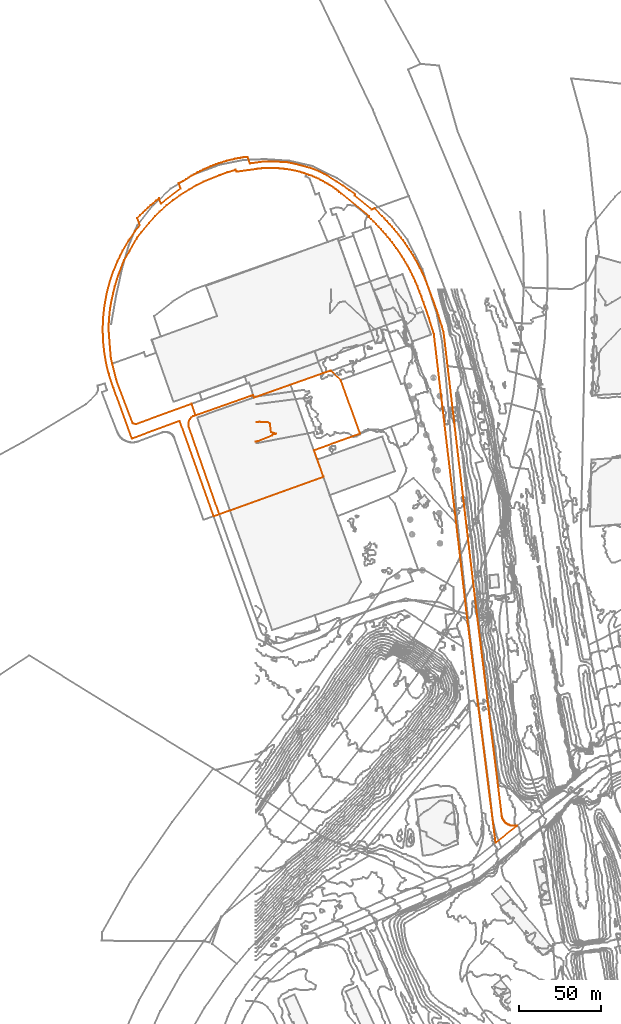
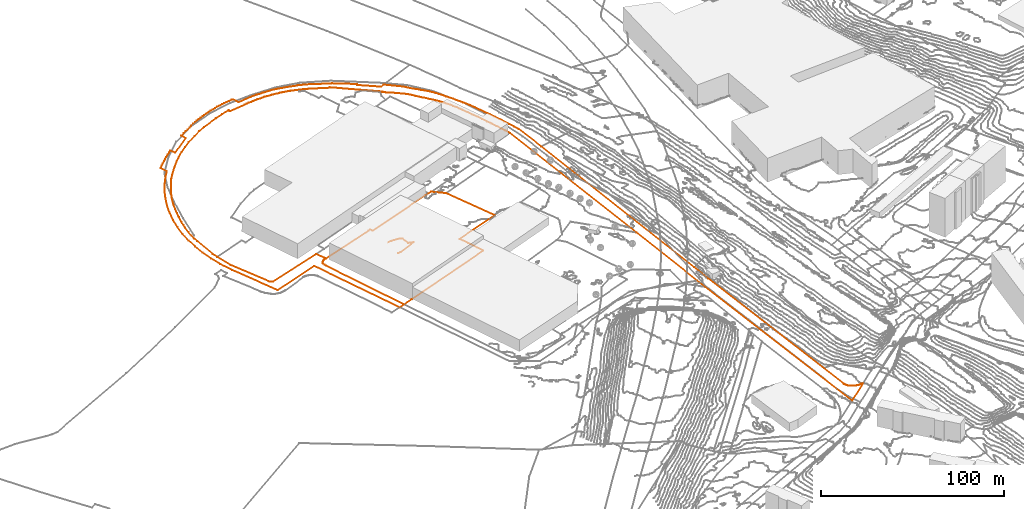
# Not in any storey, part 286 of 419: 3 proxies.
"""IFC2X3 model written with IfcOpenShell, lengths in metres."""

import ifcopenshell
import ifcopenshell.guid

model = None  # the IFC model being written
_history = None  # IfcOwnerHistory: only IFC2X3 demands one
_inside = {}  # id of a spatial element -> (the spatial element, [elements in it])
_under = {}  # id of a project, library or spatial element -> (it, [spatial elements below it])
_declared = {}  # id of a project -> (the project, [libraries it declares])
_typed = {}  # id of a type object -> (the type object, [elements of that type])
_made_of = {}  # id of a material, layer set ... -> (it, [elements and type objects made of it])


def new_model(schema):
    """Start an empty IFC model of exactly this schema.

    Asked for "IFC4X3", IfcOpenShell would pick the latest addendum, in which some entities
    have other attributes; the version numbers below select the first issue.
    IFC2X3 requires an IfcOwnerHistory on every rooted entity: one is made here for all.
    """
    global model, _history
    if schema == "IFC4X3":
        model = ifcopenshell.file(schema_version=(4, 3, 0, 0))
    else:
        model = ifcopenshell.file(schema=schema)
    _inside.clear()
    _under.clear()
    _declared.clear()
    _typed.clear()
    _made_of.clear()
    _history = None
    if model.schema == "IFC2X3":
        org = make("IfcOrganization", Name="unknown")
        user = make(
            "IfcPersonAndOrganization",
            ThePerson=make("IfcPerson", FamilyName="unknown"),
            TheOrganization=org,
        )
        app = make(
            "IfcApplication",
            ApplicationDeveloper=org,
            Version="unknown",
            ApplicationFullName="unknown",
            ApplicationIdentifier="unknown",
        )
        _history = make(
            "IfcOwnerHistory",
            OwningUser=user,
            OwningApplication=app,
            ChangeAction="ADDED",
            CreationDate=0,
        )
    return model


def make(cls, **values):
    """One entity of the class cls with the attributes given. An attribute that is None is left unset."""
    return model.create_entity(
        cls, **{name: value for name, value in values.items() if value is not None}
    )


def entity(cls, *values):
    """Any entity or typed value of the class cls, its attributes in the order of the schema. None: left unset."""
    e = model.create_entity(cls)
    for i, value in enumerate(values):
        if value is not None:
            e[i] = value
    return e


def rooted(cls, **values):
    """An entity with a GlobalId (a new one), such as an element, a storey or a relation."""
    return make(cls, GlobalId=ifcopenshell.guid.new(), OwnerHistory=_history, **values)


def si_unit(unit_type, name, prefix=None):
    """IfcSIUnit, for example si_unit("LENGTHUNIT", "METRE", prefix="MILLI")."""
    return make("IfcSIUnit", UnitType=unit_type, Prefix=prefix, Name=name)


def assignment(units):
    """IfcUnitAssignment: the units of a project."""
    return None if units is None else make("IfcUnitAssignment", Units=units)


def point(xyz):
    """IfcCartesianPoint."""
    return None if xyz is None else make("IfcCartesianPoint", Coordinates=xyz)


def direction(xyz):
    """IfcDirection."""
    return None if xyz is None else make("IfcDirection", DirectionRatios=xyz)


def frame(location, z_axis=None, x_axis=None):
    """IfcAxis2Placement3D, a coordinate frame: its origin and axes. An axis left out is left unset."""
    return make(
        "IfcAxis2Placement3D",
        Location=point(location),
        Axis=direction(z_axis),
        RefDirection=direction(x_axis),
    )


def origin_with_axes():
    """The frame at (0, 0, 0) with the z axis (0, 0, 1) and the x axis (1, 0, 0) written out."""
    return frame((0.0, 0.0, 0.0), z_axis=(0.0, 0.0, 1.0), x_axis=(1.0, 0.0, 0.0))


def place(relative_to, where):
    """IfcLocalPlacement: puts the frame where relative to a parent placement (None: the world)."""
    return make(
        "IfcLocalPlacement", PlacementRelTo=relative_to, RelativePlacement=where
    )


def context(
    kind, dimensions, precision=None, world=None, true_north=None, identifier=None
):
    """IfcGeometricRepresentationContext, for example the 3D "Model" context."""
    return make(
        "IfcGeometricRepresentationContext",
        ContextIdentifier=identifier,
        ContextType=kind,
        CoordinateSpaceDimension=dimensions,
        Precision=precision,
        WorldCoordinateSystem=world,
        TrueNorth=true_north,
    )


def subcontext(parent, identifier, kind, view, scale=None):
    """IfcGeometricRepresentationSubContext, for example "Body" below "Model"."""
    return make(
        "IfcGeometricRepresentationSubContext",
        ContextIdentifier=identifier,
        ContextType=kind,
        ParentContext=parent,
        TargetScale=scale,
        TargetView=view,
    )


def project(units=None, contexts=None):
    """IfcProject with its units and contexts."""
    return rooted(
        "IfcProject",
        Name="project",
        RepresentationContexts=contexts,
        UnitsInContext=assignment(units),
    )


def shape(context_of_items, identifier, shape_type, items):
    """IfcShapeRepresentation: the items that make up one representation, for example the "Body"."""
    return make(
        "IfcShapeRepresentation",
        ContextOfItems=context_of_items,
        RepresentationIdentifier=identifier,
        RepresentationType=shape_type,
        Items=items,
    )


def made_of(thing, what):
    """Note that an element or type object is made of a material, layer set ...; save() writes the relation."""
    if what is not None:
        _made_of.setdefault(what.id(), (what, []))[1].append(thing)
    return thing


def element(
    cls,
    number,
    at=None,
    inside=None,
    cuts=None,
    type_object=None,
    material=None,
    context=None,
    identifier="Body",
    shape_type=None,
    held_by="IfcProductDefinitionShape",
    body=None,
    shapes=None,
    **own,
):
    """One element of the class cls, such as IfcWall. Its Tag is "e" and its number.

    at: its placement. inside: the storey or other place that contains it. cuts: it is an
    opening in that element (IfcRelVoidsElement). A single representation is given by context,
    identifier, shape_type and body (its items); several are given by shapes. held_by: the class
    of the entity that holds the representations. save() writes the other relations.
    """
    e = rooted(cls, Tag="e%d" % number, ObjectPlacement=at, **own)
    if body is not None:
        shapes = [shape(context, identifier, shape_type, body)]
    if shapes is not None:
        e.Representation = make(held_by, Representations=shapes)
    if inside is not None:
        _inside.setdefault(inside.id(), (inside, []))[1].append(e)
    if cuts is not None:
        rooted(
            "IfcRelVoidsElement", RelatingBuildingElement=cuts, RelatedOpeningElement=e
        )
    if type_object is not None:
        _typed.setdefault(type_object.id(), (type_object, []))[1].append(e)
    return made_of(e, material)


def aggregate(whole, parts):
    """IfcRelAggregates: a whole, such as a stair, and the parts it consists of."""
    return rooted("IfcRelAggregates", RelatingObject=whole, RelatedObjects=parts)


def save(model, path):
    """Write the relations noted so far, then the file.

    IfcRelAggregates (storeys below a building ...), IfcRelContainedInSpatialStructure (elements
    in a storey), IfcRelDefinesByType, IfcRelAssociatesMaterial and IfcRelDeclares: one each for
    every whole, place, type object, material and project.
    """
    for whole, parts in _under.values():
        aggregate(whole, parts)
    for where, things in _inside.values():
        rooted(
            "IfcRelContainedInSpatialStructure",
            RelatedElements=things,
            RelatingStructure=where,
        )
    for kind, things in _typed.values():
        rooted("IfcRelDefinesByType", RelatedObjects=things, RelatingType=kind)
    for what, things in _made_of.values():
        rooted("IfcRelAssociatesMaterial", RelatedObjects=things, RelatingMaterial=what)
    for by, libraries in _declared.values():
        rooted("IfcRelDeclares", RelatingContext=by, RelatedDefinitions=libraries)
    model.write(path)


model = new_model("IFC2X3")

# Units and contexts
model_context = context("Model", 3, precision=1e-05, world=origin_with_axes())
body_context = subcontext(model_context, "Body", "Model", "MODEL_VIEW")
ifc_project = project(units=[si_unit("AREAUNIT", "SQUARE_METRE"), si_unit("LENGTHUNIT", "METRE")], contexts=[model_context])

# Proxies
proxy_1_placement = place(None, frame((-93.0679795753, 1008.8076909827, 20.1777002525), z_axis=(0.0, 0.0, 1.0), x_axis=(1.0, 0.0, 0.0)))
element("IfcBuildingElementProxy", 1, at=proxy_1_placement, Name="Cadastre 262", ObjectType="NOTDEFINED", context=body_context, shape_type="GeometricCurveSet", body=[
    entity("IfcGeometricCurveSet", [entity("IfcPolyline", [entity("IfcCartesianPoint", [81.2200000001, 95.1600000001, 0.2122991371]), entity("IfcCartesianPoint", [81.12, 95.4299999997, 0.2122991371]), entity("IfcCartesianPoint", [80.78, 96.3700000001, 0.2122991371]), entity("IfcCartesianPoint", [75.78, 94.8200000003, 0.2122991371]), entity("IfcCartesianPoint", [71.26, 93.25, 0.2122991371]), entity("IfcCartesianPoint", [70.8300000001, 93.0899999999, 0.2122991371]), entity("IfcCartesianPoint", [61.2400000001, 89.1699999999, 0.2122991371]), entity("IfcCartesianPoint", [57.0, 87.0099999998, 0.2122991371]), entity("IfcCartesianPoint", [52.38, 84.3700000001, 0.2122991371]), entity("IfcCartesianPoint", [46.77, 80.8099999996, 0.2122991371]), entity("IfcCartesianPoint", [42.7200000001, 77.9500000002, 0.2122991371]), entity("IfcCartesianPoint", [38.78, 74.7999999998, 0.2122991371]), entity("IfcCartesianPoint", [34.53, 70.9900000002, 0.2122991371]), entity("IfcCartesianPoint", [31.79, 68.25, 0.2122991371]), entity("IfcCartesianPoint", [28.02, 64.0300000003, 0.2122991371]), entity("IfcCartesianPoint", [23.25, 58.29, 0.2122991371]), entity("IfcCartesianPoint", [20.9300000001, 55.2000000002, 0.2122991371]), entity("IfcCartesianPoint", [20.42, 54.4000000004, 0.2122991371]), entity("IfcCartesianPoint", [16.2300000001, 47.1200000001, 0.2122991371]), entity("IfcCartesianPoint", [13.04, 41.4299999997, 0.2122991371]), entity("IfcCartesianPoint", [12.5600000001, 40.4900000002, 0.2122991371]), entity("IfcCartesianPoint", [9.5800000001, 32.8600000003, 0.2122991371]), entity("IfcCartesianPoint", [8.41, 29.1699999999, 0.2122991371]), entity("IfcCartesianPoint", [7.3400000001, 25.4199999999, 0.2122991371]), entity("IfcCartesianPoint", [6.37, 21.5499999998, 0.1919005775]), entity("IfcCartesianPoint", [5.37, 17.1100000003, 0.1374993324]), entity("IfcCartesianPoint", [4.77, 13.9299999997, 0.1057005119]), entity("IfcCartesianPoint", [4.41, 11.5, 0.0713997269]), entity("IfcCartesianPoint", [3.9600000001, 7.0599999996, 0.0269997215]), entity("IfcCartesianPoint", [3.7000000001, 3.0999999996, -0.0226005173]), entity("IfcCartesianPoint", [3.63, 0.1299999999, -0.0039000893]), entity("IfcCartesianPoint", [3.7400000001, -2.8300000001, 0.1233001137]), entity("IfcCartesianPoint", [4.9600000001, -17.9100000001, -0.0077001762]), entity("IfcCartesianPoint", [5.8100000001, -21.3600000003, -0.0177004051]), entity("IfcCartesianPoint", [8.3500000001, -31.6100000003, -0.0576994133]), entity("IfcCartesianPoint", [18.16, -57.3200000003, 0.9151001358]), entity("IfcCartesianPoint", [18.8200000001, -57.7800000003, 0.9519001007]), entity("IfcCartesianPoint", [19.87, -58.1299999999, 0.979900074]), entity("IfcCartesianPoint", [53.9400000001, -45.7199999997, -0.1629005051]), entity("IfcCartesianPoint", [56.38, -52.71, 0.3122989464]), entity("IfcCartesianPoint", [54.89, -53.2400000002, 0.3652991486]), entity("IfcCartesianPoint", [53.8, -53.9800000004, 0.4107998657]), entity("IfcCartesianPoint", [52.89, -54.96, 0.4542998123]), entity("IfcCartesianPoint", [52.38, -55.8700000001, 0.642499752]), entity("IfcCartesianPoint", [52.0700000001, -57.0200000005, 0.8911001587]), entity("IfcCartesianPoint", [52.01, -58.3499999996, 0.9975000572]), entity("IfcCartesianPoint", [52.2200000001, -59.6600000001, 1.0922997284]), entity("IfcCartesianPoint", [70.78, -112.7800000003, 0.9423005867]), entity("IfcCartesianPoint", [67.3200000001, -113.9400000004, 0.9475996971]), entity("IfcCartesianPoint", [46.7200000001, -56.0599999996, 0.7127999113]), entity("IfcCartesianPoint", [17.7200000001, -66.7800000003, 1.1793997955]), entity("IfcCartesianPoint", [6.54, -36.0599999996, -0.0741997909]), entity("IfcCartesianPoint", [3.7200000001, -27.7999999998, -0.0416009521]), entity("IfcCartesianPoint", [2.0600000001, -20.96, -0.0177004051]), entity("IfcCartesianPoint", [0.89, -14.0200000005, 0.0062001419]), entity("IfcCartesianPoint", [0.2000000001, -7.0300000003, 0.0861000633]), entity("IfcCartesianPoint", [0.0, 0.0, 0.0]), entity("IfcCartesianPoint", [0.3, 7.0199999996, 0.0265997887]), entity("IfcCartesianPoint", [1.0700000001, 14.0099999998, 0.1065005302]), entity("IfcCartesianPoint", [2.3500000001, 20.9299999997, 0.1857004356]), entity("IfcCartesianPoint", [4.1000000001, 27.75, 0.2122991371]), entity("IfcCartesianPoint", [6.3100000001, 34.4199999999, 0.2122991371]), entity("IfcCartesianPoint", [8.9900000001, 40.9199999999, 0.2122991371]), entity("IfcCartesianPoint", [10.65, 44.2599999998, 0.2122991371]), entity("IfcCartesianPoint", [12.12, 47.2299999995, 0.2122991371]), entity("IfcCartesianPoint", [15.67, 53.29, 0.2122991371]), entity("IfcCartesianPoint", [19.65, 59.0999999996, 0.2122991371]), entity("IfcCartesianPoint", [22.51, 62.79, 0.2122991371]), entity("IfcCartesianPoint", [20.9800000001, 67.1399999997, 0.2122991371]), entity("IfcCartesianPoint", [22.8400000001, 68.9100000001, 0.2122991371]), entity("IfcCartesianPoint", [24.39, 70.4299999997, 0.2122991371]), entity("IfcCartesianPoint", [25.9400000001, 71.9199999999, 0.2122991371]), entity("IfcCartesianPoint", [27.53, 73.4000000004, 0.2122991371]), entity("IfcCartesianPoint", [29.14, 74.8600000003, 0.2122991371]), entity("IfcCartesianPoint", [30.77, 76.2800000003, 0.2122991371]), entity("IfcCartesianPoint", [32.42, 77.6900000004, 0.2122991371]), entity("IfcCartesianPoint", [34.13, 79.0899999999, 0.2122991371]), entity("IfcCartesianPoint", [35.3200000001, 75.8600000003, 0.2122991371]), entity("IfcCartesianPoint", [47.28, 85.0499999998, 0.2122991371]), entity("IfcCartesianPoint", [46.1900000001, 88.1799999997, 0.2122991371]), entity("IfcCartesianPoint", [48.7100000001, 89.5700000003, 0.2122991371]), entity("IfcCartesianPoint", [50.4800000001, 90.6699999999, 0.2122991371]), entity("IfcCartesianPoint", [52.27, 91.75, 0.2122991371]), entity("IfcCartesianPoint", [54.0700000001, 92.79, 0.2122991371]), entity("IfcCartesianPoint", [55.89, 93.8099999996, 0.2122991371]), entity("IfcCartesianPoint", [57.7200000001, 94.8099999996, 0.2122991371]), entity("IfcCartesianPoint", [59.26, 95.6100000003, 0.2122991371]), entity("IfcCartesianPoint", [60.8100000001, 96.3799999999, 0.2122991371]), entity("IfcCartesianPoint", [62.38, 97.1200000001, 0.2122991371]), entity("IfcCartesianPoint", [63.9600000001, 97.8300000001, 0.2122991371]), entity("IfcCartesianPoint", [65.5600000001, 98.5099999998, 0.2122991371]), entity("IfcCartesianPoint", [67.17, 99.1399999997, 0.2122991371]), entity("IfcCartesianPoint", [68.8, 99.75, 0.2122991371]), entity("IfcCartesianPoint", [70.4300000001, 100.3200000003, 0.2122991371]), entity("IfcCartesianPoint", [72.0800000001, 100.8600000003, 0.2122991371]), entity("IfcCartesianPoint", [73.7400000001, 101.3600000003, 0.2122991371]), entity("IfcCartesianPoint", [75.41, 101.8300000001, 0.2122991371]), entity("IfcCartesianPoint", [77.0900000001, 102.2599999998, 0.2122991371]), entity("IfcCartesianPoint", [78.79, 102.6699999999, 0.2122991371]), entity("IfcCartesianPoint", [80.4800000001, 103.0300000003, 0.2122991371]), entity("IfcCartesianPoint", [82.1800000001, 103.3499999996, 0.2122991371]), entity("IfcCartesianPoint", [83.89, 103.6399999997, 0.2122991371]), entity("IfcCartesianPoint", [85.6100000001, 103.9100000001, 0.2122991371]), entity("IfcCartesianPoint", [87.3300000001, 104.1200000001, 0.2122991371]), entity("IfcCartesianPoint", [88.0600000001, 103.96, 0.2122991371]), entity("IfcCartesianPoint", [89.3600000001, 100.2299999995, 0.2122991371]), entity("IfcCartesianPoint", [97.52, 101.3399999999, 0.2509000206]), entity("IfcCartesianPoint", [101.41, 101.3300000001, 0.2797992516]), entity("IfcCartesianPoint", [105.3, 101.25, 0.3022992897]), entity("IfcCartesianPoint", [110.62, 101.04, 0.3419001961]), entity("IfcCartesianPoint", [111.8300000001, 100.9100000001, 0.3440002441]), entity("IfcCartesianPoint", [114.5800000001, 100.3799999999, 0.3714991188]), entity("IfcCartesianPoint", [120.8300000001, 98.8700000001, 0.4122999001]), entity("IfcCartesianPoint", [125.52, 97.5499999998, 0.4409005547]), entity("IfcCartesianPoint", [128.15, 96.6799999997, 0.4622991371]), entity("IfcCartesianPoint", [131.53, 95.2800000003, 0.4822995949]), entity("IfcCartesianPoint", [134.6800000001, 93.7199999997, 0.5025000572]), entity("IfcCartesianPoint", [136.38, 92.7199999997, 0.5195004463]), entity("IfcCartesianPoint", [142.01, 89.1500000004, 1.1082993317]), entity("IfcCartesianPoint", [145.8200000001, 86.6200000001, 1.078699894]), entity("IfcCartesianPoint", [149.6000000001, 84.04, 1.2298996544]), entity("IfcCartesianPoint", [153.3500000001, 81.3499999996, 1.3798997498]), entity("IfcCartesianPoint", [152.92, 80.54, 1.3627001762]), entity("IfcCartesianPoint", [163.16, 72.2699999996, 1.6872995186]), entity("IfcCartesianPoint", [165.16, 72.9900000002, 1.9472997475]), entity("IfcCartesianPoint", [169.5800000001, 68.1799999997, 2.5218988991]), entity("IfcCartesianPoint", [171.1000000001, 66.6600000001, 2.7150994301]), entity("IfcCartesianPoint", [172.6100000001, 65.1100000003, 2.8202997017]), entity("IfcCartesianPoint", [174.0800000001, 63.5300000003, 2.7518997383]), entity("IfcCartesianPoint", [175.52, 61.9400000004, 2.6650999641]), entity("IfcCartesianPoint", [176.9300000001, 60.3099999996, 2.7592996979]), entity("IfcCartesianPoint", [178.3200000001, 58.6600000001, 2.8983002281]), entity("IfcCartesianPoint", [179.67, 56.9799999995, 3.0332988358]), entity("IfcCartesianPoint", [180.9900000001, 55.2800000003, 3.1652993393]), entity("IfcCartesianPoint", [182.29, 53.5499999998, 3.2952998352]), entity("IfcCartesianPoint", [183.55, 51.8099999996, 3.3945997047]), entity("IfcCartesianPoint", [184.78, 50.0300000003, 3.3886995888]), entity("IfcCartesianPoint", [185.9700000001, 48.2400000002, 3.3437002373]), entity("IfcCartesianPoint", [187.15, 46.4299999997, 3.3022992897]), entity("IfcCartesianPoint", [188.27, 44.5899999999, 3.241299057]), entity("IfcCartesianPoint", [189.37, 42.7400000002, 3.1596992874]), entity("IfcCartesianPoint", [190.4400000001, 40.8600000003, 3.0954998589]), entity("IfcCartesianPoint", [191.4700000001, 38.9699999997, 3.0579994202]), entity("IfcCartesianPoint", [192.4700000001, 37.0599999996, 3.1170992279]), entity("IfcCartesianPoint", [193.4300000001, 35.1299999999, 3.1553997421]), entity("IfcCartesianPoint", [194.3600000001, 33.1900000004, 3.1693000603]), entity("IfcCartesianPoint", [195.25, 31.2199999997, 3.1899994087]), entity("IfcCartesianPoint", [196.5800000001, 27.9299999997, 3.1931004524]), entity("IfcCartesianPoint", [197.8600000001, 24.6299999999, 3.1683000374]), entity("IfcCartesianPoint", [199.13, 21.3099999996, 3.174836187]), entity("IfcCartesianPoint", [200.3400000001, 17.9799999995, 3.1898045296]), entity("IfcCartesianPoint", [201.53, 14.6399999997, 3.1796050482]), entity("IfcCartesianPoint", [202.6800000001, 11.29, 3.2215193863]), entity("IfcCartesianPoint", [203.8, 7.9199999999, 3.2466759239]), entity("IfcCartesianPoint", [204.88, 4.54, 3.2761191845]), entity("IfcCartesianPoint", [205.9300000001, 1.1500000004, 3.3220523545]), entity("IfcCartesianPoint", [206.9300000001, -2.25, 3.3982356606]), entity("IfcCartesianPoint", [209.38, -22.8499999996, 3.3422682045]), entity("IfcCartesianPoint", [225.78, -161.4500000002, 1.013835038]), entity("IfcCartesianPoint", [227.3, -174.2599999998, 0.8382595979]), entity("IfcCartesianPoint", [242.28, -296.0800000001, -0.6958459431]), entity("IfcCartesianPoint", [242.3, -296.2700000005, -0.6939959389]), entity("IfcCartesianPoint", [242.41, -296.5999999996, -0.6839999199]), entity("IfcCartesianPoint", [242.5800000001, -297.1100000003, -0.6720999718]), entity("IfcCartesianPoint", [242.8, -297.6100000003, -0.6582200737]), entity("IfcCartesianPoint", [243.05, -298.0899999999, -0.6406481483]), entity("IfcCartesianPoint", [243.3300000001, -298.5499999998, -0.6253380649]), entity("IfcCartesianPoint", [243.64, -298.9900000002, -0.6241837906]), entity("IfcCartesianPoint", [243.9800000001, -299.4100000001, -0.6220995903]), entity("IfcCartesianPoint", [244.3600000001, -299.79, -0.6145001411]), entity("IfcCartesianPoint", [244.76, -300.1600000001, -0.6017006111]), entity("IfcCartesianPoint", [245.1900000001, -300.4800000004, -0.5694135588]), entity("IfcCartesianPoint", [245.64, -300.7800000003, -0.5431782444]), entity("IfcCartesianPoint", [246.1100000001, -301.04, -0.4980704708]), entity("IfcCartesianPoint", [246.6000000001, -301.2700000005, -0.450868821]), entity("IfcCartesianPoint", [247.1000000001, -301.46, -0.4226608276]), entity("IfcCartesianPoint", [247.62, -301.6100000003, -0.3874607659]), entity("IfcCartesianPoint", [248.15, -301.7300000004, -0.3639000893]), entity("IfcCartesianPoint", [248.6800000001, -301.7999999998, -0.3376553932]), entity("IfcCartesianPoint", [249.2200000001, -301.8399999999, -0.3077156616]), entity("IfcCartesianPoint", [249.76, -301.8300000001, -0.2738599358]), entity("IfcCartesianPoint", [250.3, -301.79, -0.2388362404]), entity("IfcCartesianPoint", [250.8400000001, -301.7000000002, -0.2031783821]), entity("IfcCartesianPoint", [251.54, -301.7800000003, -0.178844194]), entity("IfcCartesianPoint", [238.4800000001, -312.1399999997, -1.0937582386]), entity("IfcCartesianPoint", [220.9700000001, -173.2800000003, 0.8770050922]), entity("IfcCartesianPoint", [214.6000000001, -118.0200000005, 1.7040001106]), entity("IfcCartesianPoint", [201.04, -3.4500000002, 3.2956911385]), entity("IfcCartesianPoint", [200.0600000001, -0.1699999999, 3.2702995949]), entity("IfcCartesianPoint", [199.05, 3.0999999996, 3.2137341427]), entity("IfcCartesianPoint", [197.9900000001, 6.3700000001, 3.1764653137]), entity("IfcCartesianPoint", [196.92, 9.6200000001, 3.1646334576]), entity("IfcCartesianPoint", [195.8100000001, 12.8600000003, 3.0907844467]), entity("IfcCartesianPoint", [194.65, 16.0800000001, 3.1175528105]), entity("IfcCartesianPoint", [193.4800000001, 19.2999999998, 3.0941863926]), entity("IfcCartesianPoint", [192.26, 22.5, 3.0197192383]), entity("IfcCartesianPoint", [191.02, 25.6900000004, 3.0714997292]), entity("IfcCartesianPoint", [189.7300000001, 28.8799999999, 3.1380994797]), entity("IfcCartesianPoint", [188.8600000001, 30.7999999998, 3.190299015]), entity("IfcCartesianPoint", [187.9500000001, 32.6900000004, 3.2732991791]), entity("IfcCartesianPoint", [187.0, 34.5800000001, 3.3022992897]), entity("IfcCartesianPoint", [186.02, 36.4400000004, 3.3407001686]), entity("IfcCartesianPoint", [185.01, 38.29, 3.3817998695]), entity("IfcCartesianPoint", [183.9600000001, 40.1200000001, 3.3992996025]), entity("IfcCartesianPoint", [182.88, 41.9299999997, 3.3476999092]), entity("IfcCartesianPoint", [181.76, 43.7199999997, 3.242299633]), entity("IfcCartesianPoint", [180.62, 45.4900000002, 3.1282991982]), entity("IfcCartesianPoint", [179.4300000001, 47.2299999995, 3.0092991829]), entity("IfcCartesianPoint", [178.2200000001, 48.96, 2.88830019]), entity("IfcCartesianPoint", [176.9700000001, 50.6600000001, 2.7632997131]), entity("IfcCartesianPoint", [175.6900000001, 52.3399999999, 2.6643998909]), entity("IfcCartesianPoint", [174.38, 53.9900000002, 2.7159000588]), entity("IfcCartesianPoint", [173.05, 55.6200000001, 2.8144995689]), entity("IfcCartesianPoint", [171.6800000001, 57.2299999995, 2.7830988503]), entity("IfcCartesianPoint", [170.28, 58.7999999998, 2.6128994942]), entity("IfcCartesianPoint", [168.8500000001, 60.3600000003, 2.4269995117]), entity("IfcCartesianPoint", [167.4, 61.8799999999, 2.2385002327]), entity("IfcCartesianPoint", [165.91, 63.3700000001, 2.0448000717]), entity("IfcCartesianPoint", [164.4, 64.8399999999, 1.8484994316]), entity("IfcCartesianPoint", [162.8600000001, 66.29, 1.6482991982]), entity("IfcCartesianPoint", [161.3, 67.7000000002, 1.4455001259]), entity("IfcCartesianPoint", [161.66, 68.1200000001, 1.4922998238]), entity("IfcCartesianPoint", [144.7400000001, 82.0300000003, 1.0722997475]), entity("IfcCartesianPoint", [143.64, 82.9199999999, 1.072499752]), entity("IfcCartesianPoint", [142.53, 83.79, 1.0874998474]), entity("IfcCartesianPoint", [141.38, 84.6399999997, 1.1334992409]), entity("IfcCartesianPoint", [140.2300000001, 85.4500000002, 1.1752001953]), entity("IfcCartesianPoint", [138.9600000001, 86.3099999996, 1.2202998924]), entity("IfcCartesianPoint", [137.67, 87.1399999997, 0.4996998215]), entity("IfcCartesianPoint", [136.3600000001, 87.9500000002, 0.5193004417]), entity("IfcCartesianPoint", [135.02, 88.7199999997, 0.505900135]), entity("IfcCartesianPoint", [133.6800000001, 89.4699999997, 0.5023000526]), entity("IfcCartesianPoint", [132.3100000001, 90.1799999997, 0.4887997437]), entity("IfcCartesianPoint", [130.9400000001, 90.8600000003, 0.4822995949]), entity("IfcCartesianPoint", [129.54, 91.5, 0.4710993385]), entity("IfcCartesianPoint", [128.14, 92.1200000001, 0.4622991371]), entity("IfcCartesianPoint", [126.7200000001, 92.7000000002, 0.452898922]), entity("IfcCartesianPoint", [125.27, 93.25, 0.4384004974]), entity("IfcCartesianPoint", [123.8200000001, 93.7699999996, 0.4323003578]), entity("IfcCartesianPoint", [122.37, 94.2599999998, 0.4194000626]), entity("IfcCartesianPoint", [120.9, 94.71, 0.4122999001]), entity("IfcCartesianPoint", [119.42, 95.1200000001, 0.3998996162]), entity("IfcCartesianPoint", [117.9300000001, 95.5, 0.3922994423]), entity("IfcCartesianPoint", [116.4300000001, 95.8499999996, 0.3799991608]), entity("IfcCartesianPoint", [114.92, 96.1699999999, 0.3722989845]), entity("IfcCartesianPoint", [113.41, 96.4500000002, 0.3598006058]), entity("IfcCartesianPoint", [111.89, 96.6799999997, 0.3446002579]), entity("IfcCartesianPoint", [110.37, 96.9000000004, 0.3394001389]), entity("IfcCartesianPoint", [108.8400000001, 97.0700000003, 0.3240997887]), entity("IfcCartesianPoint", [107.3100000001, 97.21, 0.3187996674]), entity("IfcCartesianPoint", [105.78, 97.3200000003, 0.3034993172]), entity("IfcCartesianPoint", [104.29, 97.3899999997, 0.298599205]), entity("IfcCartesianPoint", [102.8, 97.4199999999, 0.283698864]), entity("IfcCartesianPoint", [101.3, 97.4199999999, 0.2786994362]), entity("IfcCartesianPoint", [99.8200000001, 97.3899999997, 0.2639003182]), entity("IfcCartesianPoint", [98.3300000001, 97.3300000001, 0.2523000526]), entity("IfcCartesianPoint", [96.8400000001, 97.2299999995, 0.244099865]), entity("IfcCartesianPoint", [95.3600000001, 97.0899999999, 0.2322995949]), entity("IfcCartesianPoint", [93.88, 96.9299999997, 0.2244994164]), entity("IfcCartesianPoint", [92.4, 96.7400000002, 0.2122991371]), entity("IfcCartesianPoint", [90.9300000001, 96.5099999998, 0.2122991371]), entity("IfcCartesianPoint", [81.2200000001, 95.1600000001, 0.2122991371])])]),
])
proxy_2_placement = place(None, frame((-41.0579795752, 950.4576909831, 21.1752003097), z_axis=(0.0, 0.0, 1.0), x_axis=(1.0, 0.0, 0.0)))
element("IfcBuildingElementProxy", 2, at=proxy_2_placement, Name="Cadastre 264", ObjectType="NOTDEFINED", context=body_context, shape_type="GeometricCurveSet", body=[
    entity("IfcGeometricCurveSet", [entity("IfcPolyline", [entity("IfcCartesianPoint", [0.2100000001, -1.3100000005, 0.0947996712]), entity("IfcCartesianPoint", [0.0, 0.0, 0.0]), entity("IfcCartesianPoint", [0.0600000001, 1.3299999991, -0.1063998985]), entity("IfcCartesianPoint", [0.37, 2.4799999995, -0.3550003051]), entity("IfcCartesianPoint", [0.88, 3.3899999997, -0.5432002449]), entity("IfcCartesianPoint", [1.79, 4.3699999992, -0.5867001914]), entity("IfcCartesianPoint", [2.88, 5.1099999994, -0.6322009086]), entity("IfcCartesianPoint", [4.37, 5.6399999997, -0.6852011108]), entity("IfcCartesianPoint", [38.24, 17.6499999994, -1.1554998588]), entity("IfcCartesianPoint", [39.36, 18.04, -1.1301994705]), entity("IfcCartesianPoint", [39.89, 16.4099999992, -1.2423008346]), entity("IfcCartesianPoint", [81.6800000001, 31.2399999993, -1.1873910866]), entity("IfcCartesianPoint", [86.1800000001, 32.8299999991, -1.3058815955]), entity("IfcCartesianPoint", [86.49, 32.5499999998, -1.2719324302]), entity("IfcCartesianPoint", [92.51, 27.0799999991, -1.0339968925]), entity("IfcCartesianPoint", [104.2300000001, -5.4800000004, -0.0867803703]), entity("IfcCartesianPoint", [76.2300000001, -15.5500000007, -0.0303008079]), entity("IfcCartesianPoint", [78.3300000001, -21.1800000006, -0.0152004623]), entity("IfcCartesianPoint", [81.99, -31.6900000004, 0.0148002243]), entity("IfcCartesianPoint", [25.36, -52.1100000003, -0.0651996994]), entity("IfcCartesianPoint", [24.92, -52.1600000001, -0.0651996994]), entity("IfcCartesianPoint", [18.77, -54.4300000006, -0.0551994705]), entity("IfcCartesianPoint", [0.2100000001, -1.3100000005, 0.0947996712])])]),
])
proxy_3_placement = place(None, frame((-0.4079795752, 940.0912379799, 21.0), z_axis=(0.0, 0.0, 1.0), x_axis=(1.0, 0.0, 0.0)))
element("IfcBuildingElementProxy", 3, at=proxy_3_placement, Name="Contour 21.0 m", ObjectType="NOTDEFINED", context=body_context, shape_type="GeometricCurveSet", body=[
    entity("IfcGeometricCurveSet", [entity("IfcPolyline", [entity("IfcCartesianPoint", [0.0, 11.8605081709, 0.0]), entity("IfcCartesianPoint", [2.5, 12.0564589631, 0.0]), entity("IfcCartesianPoint", [7.5, 11.8064655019, 0.0]), entity("IfcCartesianPoint", [8.5, 11.306502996, 0.0]), entity("IfcCartesianPoint", [8.8333333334, 10.8064530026, 0.0]), entity("IfcCartesianPoint", [9.5000333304, 5.8064530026, 0.0]), entity("IfcCartesianPoint", [12.5000099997, 4.8064530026, 0.0]), entity("IfcCartesianPoint", [10.5, 4.3778815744, 0.0]), entity("IfcCartesianPoint", [10.1666613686, 3.8064530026, 0.0]), entity("IfcCartesianPoint", [1.5, 0.2412381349, 0.0]), entity("IfcCartesianPoint", [0.0, 0.0, 0.0])])]),
])

save(model, "model.ifc")
